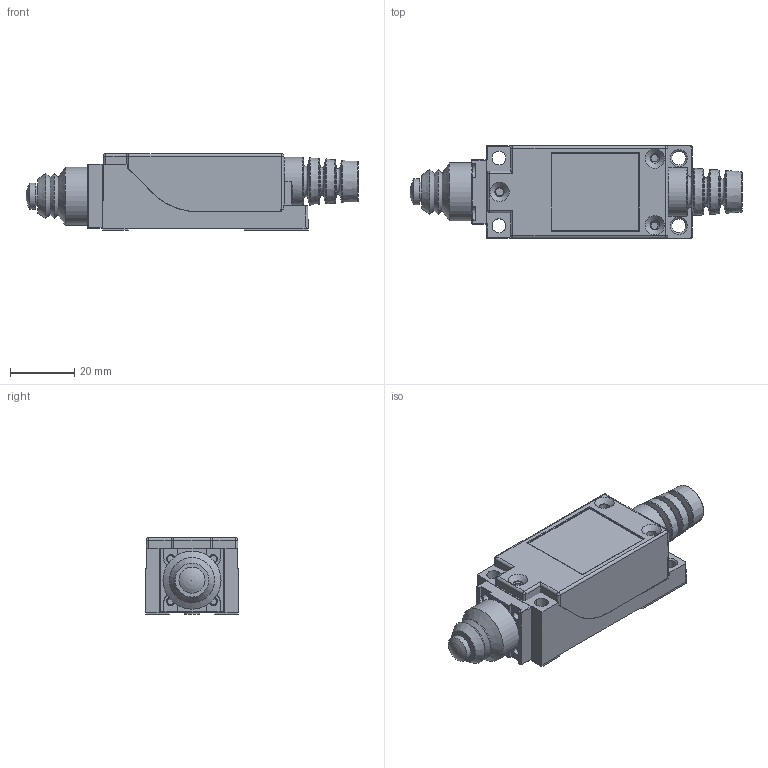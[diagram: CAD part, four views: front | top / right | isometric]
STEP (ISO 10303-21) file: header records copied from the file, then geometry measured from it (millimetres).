
FILE_DESCRIPTION(('FreeCAD Model'),'2;1');
FILE_NAME('Open CASCADE Shape Model','2026-09-09T09:30:38',(''),(''), 'Open CASCADE STEP processor 7.8','FreeCAD','Unknown');
FILE_SCHEMA(('AUTOMOTIVE_DESIGN { 1 0 10303 214 1 1 1 1 }'));
Length unit declared in the file: millimetre
Products named in the file (8): FM8111; 1; 2; 3; 4; 5; 6; 7
Assembly tree (7 placements, depth 2):
  FM8111
    1
    2
    3
    4
    5
    6
    7
Bounding box: 102.97 x 28.81 x 23.81 mm (x, y, z)
Volume: 19939.9 mm3; surface area: 23256.4 mm2
Topology: 7 solids, 7 shells, 522 faces, 1278 edges, 775 vertices
Faces by surface type: plane 221, cylinder 174, cone 62, torus 28, sphere 23, bspline 10, extrusion 4
Full cylindrical faces by diameter (mm): 2.6 x4, 3 x3, 5.6 x1, 6 x3, 8 x1, 8.07 x2, 8.2 x1, 12 x1, 12.4 x2, 12.5 x2, 14.5 x2, 15 x1, 18 x1
Entity records: 18641 total; most frequent: CARTESIAN_POINT 6207, DIRECTION 2609, ORIENTED_EDGE 2506, EDGE_CURVE 1253, AXIS2_PLACEMENT_3D 964, VERTEX_POINT 775, VECTOR 681, LINE 677
